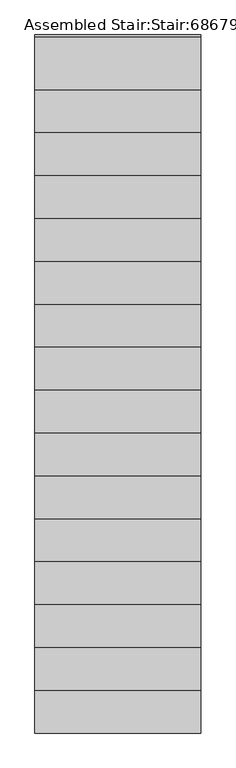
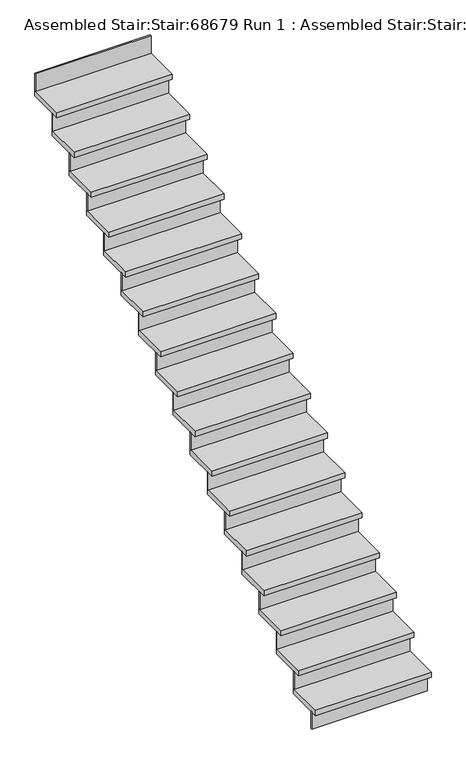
"""IFC4 building model written with IfcOpenShell, lengths in millimetres: stair geometry, Assembled Stair:Stair:68679 Run 1 : Assembled Stair:Stair:68679 Run 1."""

from ifc_helpers import new_model, si_unit, frame, origin, origin_with_axes, place, context, project, spatial, polyline, outline, extrude, source, transform, mapped, element, save


def assembled_stair_stair_68679_run_1_assembled_stair_stair_a77dc0a1(model_context):
    return source(origin(), model_context, "Body", "SweptSolid", [
        extrude(outline(polyline([(17349.8089026, -21744.6322236), (18199.8089026, -21744.6322236), (18199.8089026, -21754.6322236), (17349.8089026, -21754.6322236), (17349.8089026, -21744.6322236)])), frame((0.0, 0.0, 2823.5294118), z_axis=(0.0, 0.0, 1.0), x_axis=(1.0, 0.0, 0.0)), (0.0, 0.0, 1.0), 136.4705882),
        extrude(outline(polyline([(17349.8089026, -21964.6322236), (18199.8089026, -21964.6322236), (18199.8089026, -21974.6322236), (17349.8089026, -21974.6322236), (17349.8089026, -21964.6322236)])), frame((0.0, 0.0, 2647.0588235), z_axis=(0.0, 0.0, 1.0), x_axis=(1.0, 0.0, 0.0)), (0.0, 0.0, 1.0), 136.4705882),
        extrude(outline(polyline([(17349.8089026, -22024.6322236), (17349.8089026, -21744.6322236), (18199.8089026, -21744.6322236), (18199.8089026, -22024.6322236), (17349.8089026, -22024.6322236)])), frame((0.0, 0.0, 2783.5294118), z_axis=(0.0, 0.0, 1.0), x_axis=(1.0, 0.0, 0.0)), (0.0, 0.0, 1.0), 40.0),
        extrude(outline(polyline([(17349.8089026, -22184.6322236), (18199.8089026, -22184.6322236), (18199.8089026, -22194.6322236), (17349.8089026, -22194.6322236), (17349.8089026, -22184.6322236)])), frame((0.0, 0.0, 2470.5882353), z_axis=(0.0, 0.0, 1.0), x_axis=(1.0, 0.0, 0.0)), (0.0, 0.0, 1.0), 136.4705882),
        extrude(outline(polyline([(17349.8089026, -22244.6322236), (17349.8089026, -21964.6322236), (18199.8089026, -21964.6322236), (18199.8089026, -22244.6322236), (17349.8089026, -22244.6322236)])), frame((0.0, 0.0, 2607.0588235), z_axis=(0.0, 0.0, 1.0), x_axis=(1.0, 0.0, 0.0)), (0.0, 0.0, 1.0), 40.0),
        extrude(outline(polyline([(17349.8089026, -22404.6322236), (18199.8089026, -22404.6322236), (18199.8089026, -22414.6322236), (17349.8089026, -22414.6322236), (17349.8089026, -22404.6322236)])), frame((0.0, 0.0, 2294.1176471), z_axis=(0.0, 0.0, 1.0), x_axis=(1.0, 0.0, 0.0)), (0.0, 0.0, 1.0), 136.4705882),
        extrude(outline(polyline([(17349.8089026, -22464.6322236), (17349.8089026, -22184.6322236), (18199.8089026, -22184.6322236), (18199.8089026, -22464.6322236), (17349.8089026, -22464.6322236)])), frame((0.0, 0.0, 2430.5882353), z_axis=(0.0, 0.0, 1.0), x_axis=(1.0, 0.0, 0.0)), (0.0, 0.0, 1.0), 40.0),
        extrude(outline(polyline([(17349.8089026, -22624.6322236), (18199.8089026, -22624.6322236), (18199.8089026, -22634.6322236), (17349.8089026, -22634.6322236), (17349.8089026, -22624.6322236)])), frame((0.0, 0.0, 2117.6470588), z_axis=(0.0, 0.0, 1.0), x_axis=(1.0, 0.0, 0.0)), (0.0, 0.0, 1.0), 136.4705882),
        extrude(outline(polyline([(17349.8089026, -22684.6322236), (17349.8089026, -22404.6322236), (18199.8089026, -22404.6322236), (18199.8089026, -22684.6322236), (17349.8089026, -22684.6322236)])), frame((0.0, 0.0, 2254.1176471), z_axis=(0.0, 0.0, 1.0), x_axis=(1.0, 0.0, 0.0)), (0.0, 0.0, 1.0), 40.0),
        extrude(outline(polyline([(17349.8089026, -22844.6322236), (18199.8089026, -22844.6322236), (18199.8089026, -22854.6322236), (17349.8089026, -22854.6322236), (17349.8089026, -22844.6322236)])), frame((0.0, 0.0, 1941.1764706), z_axis=(0.0, 0.0, 1.0), x_axis=(1.0, 0.0, 0.0)), (0.0, 0.0, 1.0), 136.4705882),
        extrude(outline(polyline([(17349.8089026, -22904.6322236), (17349.8089026, -22624.6322236), (18199.8089026, -22624.6322236), (18199.8089026, -22904.6322236), (17349.8089026, -22904.6322236)])), frame((0.0, 0.0, 2077.6470588), z_axis=(0.0, 0.0, 1.0), x_axis=(1.0, 0.0, 0.0)), (0.0, 0.0, 1.0), 40.0),
        extrude(outline(polyline([(17349.8089026, -23064.6322236), (18199.8089026, -23064.6322236), (18199.8089026, -23074.6322236), (17349.8089026, -23074.6322236), (17349.8089026, -23064.6322236)])), frame((0.0, 0.0, 1764.7058824), z_axis=(0.0, 0.0, 1.0), x_axis=(1.0, 0.0, 0.0)), (0.0, 0.0, 1.0), 136.4705882),
        extrude(outline(polyline([(17349.8089026, -23124.6322236), (17349.8089026, -22844.6322236), (18199.8089026, -22844.6322236), (18199.8089026, -23124.6322236), (17349.8089026, -23124.6322236)])), frame((0.0, 0.0, 1901.1764706), z_axis=(0.0, 0.0, 1.0), x_axis=(1.0, 0.0, 0.0)), (0.0, 0.0, 1.0), 40.0),
        extrude(outline(polyline([(17349.8089026, -23284.6322236), (18199.8089026, -23284.6322236), (18199.8089026, -23294.6322236), (17349.8089026, -23294.6322236), (17349.8089026, -23284.6322236)])), frame((0.0, 0.0, 1588.2352941), z_axis=(0.0, 0.0, 1.0), x_axis=(1.0, 0.0, 0.0)), (0.0, 0.0, 1.0), 136.4705882),
        extrude(outline(polyline([(17349.8089026, -23344.6322236), (17349.8089026, -23064.6322236), (18199.8089026, -23064.6322236), (18199.8089026, -23344.6322236), (17349.8089026, -23344.6322236)])), frame((0.0, 0.0, 1724.7058824), z_axis=(0.0, 0.0, 1.0), x_axis=(1.0, 0.0, 0.0)), (0.0, 0.0, 1.0), 40.0),
        extrude(outline(polyline([(17349.8089026, -23504.6322236), (18199.8089026, -23504.6322236), (18199.8089026, -23514.6322236), (17349.8089026, -23514.6322236), (17349.8089026, -23504.6322236)])), frame((0.0, 0.0, 1411.7647059), z_axis=(0.0, 0.0, 1.0), x_axis=(1.0, 0.0, 0.0)), (0.0, 0.0, 1.0), 136.4705882),
        extrude(outline(polyline([(17349.8089026, -23564.6322236), (17349.8089026, -23284.6322236), (18199.8089026, -23284.6322236), (18199.8089026, -23564.6322236), (17349.8089026, -23564.6322236)])), frame((0.0, 0.0, 1548.2352941), z_axis=(0.0, 0.0, 1.0), x_axis=(1.0, 0.0, 0.0)), (0.0, 0.0, 1.0), 40.0),
        extrude(outline(polyline([(17349.8089026, -23724.6322236), (18199.8089026, -23724.6322236), (18199.8089026, -23734.6322236), (17349.8089026, -23734.6322236), (17349.8089026, -23724.6322236)])), frame((0.0, 0.0, 1235.2941176), z_axis=(0.0, 0.0, 1.0), x_axis=(1.0, 0.0, 0.0)), (0.0, 0.0, 1.0), 136.4705882),
        extrude(outline(polyline([(17349.8089026, -23784.6322236), (17349.8089026, -23504.6322236), (18199.8089026, -23504.6322236), (18199.8089026, -23784.6322236), (17349.8089026, -23784.6322236)])), frame((0.0, 0.0, 1371.7647059), z_axis=(0.0, 0.0, 1.0), x_axis=(1.0, 0.0, 0.0)), (0.0, 0.0, 1.0), 40.0),
        extrude(outline(polyline([(17349.8089026, -23944.6322236), (18199.8089026, -23944.6322236), (18199.8089026, -23954.6322236), (17349.8089026, -23954.6322236), (17349.8089026, -23944.6322236)])), frame((0.0, 0.0, 1058.8235294), z_axis=(0.0, 0.0, 1.0), x_axis=(1.0, 0.0, 0.0)), (0.0, 0.0, 1.0), 136.4705882),
        extrude(outline(polyline([(17349.8089026, -24004.6322236), (17349.8089026, -23724.6322236), (18199.8089026, -23724.6322236), (18199.8089026, -24004.6322236), (17349.8089026, -24004.6322236)])), frame((0.0, 0.0, 1195.2941176), z_axis=(0.0, 0.0, 1.0), x_axis=(1.0, 0.0, 0.0)), (0.0, 0.0, 1.0), 40.0),
        extrude(outline(polyline([(17349.8089026, -24164.6322236), (18199.8089026, -24164.6322236), (18199.8089026, -24174.6322236), (17349.8089026, -24174.6322236), (17349.8089026, -24164.6322236)])), frame((0.0, 0.0, 882.3529412), z_axis=(0.0, 0.0, 1.0), x_axis=(1.0, 0.0, 0.0)), (0.0, 0.0, 1.0), 136.4705882),
        extrude(outline(polyline([(17349.8089026, -24224.6322236), (17349.8089026, -23944.6322236), (18199.8089026, -23944.6322236), (18199.8089026, -24224.6322236), (17349.8089026, -24224.6322236)])), frame((0.0, 0.0, 1018.8235294), z_axis=(0.0, 0.0, 1.0), x_axis=(1.0, 0.0, 0.0)), (0.0, 0.0, 1.0), 40.0),
        extrude(outline(polyline([(17349.8089026, -24384.6322236), (18199.8089026, -24384.6322236), (18199.8089026, -24394.6322236), (17349.8089026, -24394.6322236), (17349.8089026, -24384.6322236)])), frame((0.0, 0.0, 705.8823529), z_axis=(0.0, 0.0, 1.0), x_axis=(1.0, 0.0, 0.0)), (0.0, 0.0, 1.0), 136.4705882),
        extrude(outline(polyline([(17349.8089026, -24444.6322236), (17349.8089026, -24164.6322236), (18199.8089026, -24164.6322236), (18199.8089026, -24444.6322236), (17349.8089026, -24444.6322236)])), frame((0.0, 0.0, 842.3529412), z_axis=(0.0, 0.0, 1.0), x_axis=(1.0, 0.0, 0.0)), (0.0, 0.0, 1.0), 40.0),
        extrude(outline(polyline([(17349.8089026, -24604.6322236), (18199.8089026, -24604.6322236), (18199.8089026, -24614.6322236), (17349.8089026, -24614.6322236), (17349.8089026, -24604.6322236)])), frame((0.0, 0.0, 529.4117647), z_axis=(0.0, 0.0, 1.0), x_axis=(1.0, 0.0, 0.0)), (0.0, 0.0, 1.0), 136.4705882),
        extrude(outline(polyline([(17349.8089026, -24664.6322236), (17349.8089026, -24384.6322236), (18199.8089026, -24384.6322236), (18199.8089026, -24664.6322236), (17349.8089026, -24664.6322236)])), frame((0.0, 0.0, 665.8823529), z_axis=(0.0, 0.0, 1.0), x_axis=(1.0, 0.0, 0.0)), (0.0, 0.0, 1.0), 40.0),
        extrude(outline(polyline([(17349.8089026, -24824.6322236), (18199.8089026, -24824.6322236), (18199.8089026, -24834.6322236), (17349.8089026, -24834.6322236), (17349.8089026, -24824.6322236)])), frame((0.0, 0.0, 352.9411765), z_axis=(0.0, 0.0, 1.0), x_axis=(1.0, 0.0, 0.0)), (0.0, 0.0, 1.0), 136.4705882),
        extrude(outline(polyline([(17349.8089026, -24884.6322236), (17349.8089026, -24604.6322236), (18199.8089026, -24604.6322236), (18199.8089026, -24884.6322236), (17349.8089026, -24884.6322236)])), frame((0.0, 0.0, 489.4117647), z_axis=(0.0, 0.0, 1.0), x_axis=(1.0, 0.0, 0.0)), (0.0, 0.0, 1.0), 40.0),
        extrude(outline(polyline([(17349.8089026, -25044.6322236), (18199.8089026, -25044.6322236), (18199.8089026, -25054.6322236), (17349.8089026, -25054.6322236), (17349.8089026, -25044.6322236)])), frame((0.0, 0.0, 176.4705882), z_axis=(0.0, 0.0, 1.0), x_axis=(1.0, 0.0, 0.0)), (0.0, 0.0, 1.0), 136.4705882),
        extrude(outline(polyline([(17349.8089026, -25104.6322236), (17349.8089026, -24824.6322236), (18199.8089026, -24824.6322236), (18199.8089026, -25104.6322236), (17349.8089026, -25104.6322236)])), frame((0.0, 0.0, 312.9411765), z_axis=(0.0, 0.0, 1.0), x_axis=(1.0, 0.0, 0.0)), (0.0, 0.0, 1.0), 40.0),
        extrude(outline(polyline([(17349.8089026, -25264.6322236), (18199.8089026, -25264.6322236), (18199.8089026, -25274.6322236), (17349.8089026, -25274.6322236), (17349.8089026, -25264.6322236)])), origin_with_axes(), (0.0, 0.0, 1.0), 136.4705882),
        extrude(outline(polyline([(17349.8089026, -25324.6322236), (17349.8089026, -25044.6322236), (18199.8089026, -25044.6322236), (18199.8089026, -25324.6322236), (17349.8089026, -25324.6322236)])), frame((0.0, 0.0, 136.4705882), z_axis=(0.0, 0.0, 1.0), x_axis=(1.0, 0.0, 0.0)), (0.0, 0.0, 1.0), 40.0),
    ])


if __name__ == "__main__":
    model = new_model("IFC4")
    model_context = context("Model", 3, world=origin())
    ifc_project = project(units=[si_unit("LENGTHUNIT", "METRE", prefix="MILLI")], contexts=[model_context])
    site = spatial("IfcSite", under=ifc_project)
    building = spatial("IfcBuilding", under=site)
    placement = place(None, origin())
    assembled_stair_stair_68679_run_1_assembled_stair_stair_shape = assembled_stair_stair_68679_run_1_assembled_stair_stair_a77dc0a1(model_context)
    element("IfcStair", 1, ObjectType="Assembled Stair:Stair:68679 Run 1 : Assembled Stair:Stair:68679 Run 1", at=placement, inside=building, context=model_context, shape_type="MappedRepresentation", body=[
        mapped(assembled_stair_stair_68679_run_1_assembled_stair_stair_shape, transform((0.0, 0.0, 0.0), x_axis=(1.0, 0.0, 0.0), y_axis=(0.0, 1.0, 0.0), z_axis=(0.0, 0.0, 1.0))),
    ])
    save(model, "model.ifc")
